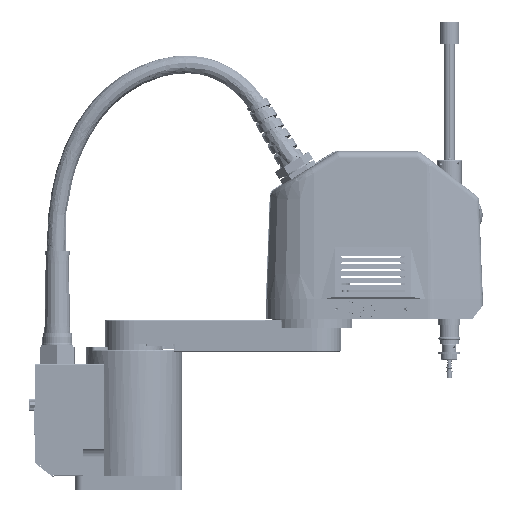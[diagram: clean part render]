
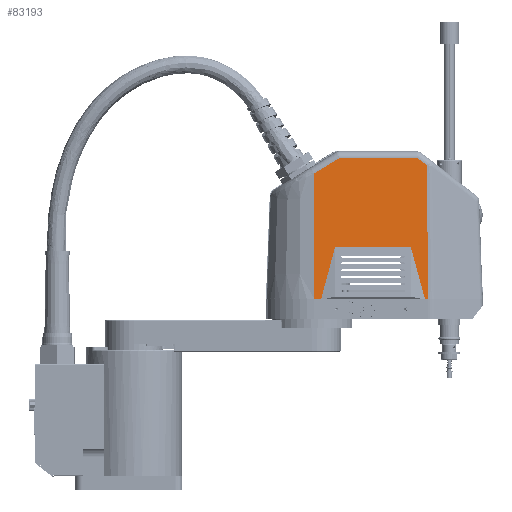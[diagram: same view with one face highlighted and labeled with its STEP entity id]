
A CAD part, front view. The second image highlights one B-rep face of the part: STEP entity #83193.
In plain terms, the highlighted planar face has unit normal (0.043, -0.999, 0.035) as drawn and (0, 0.999, -0.035) by its records, which use the part's own axes.
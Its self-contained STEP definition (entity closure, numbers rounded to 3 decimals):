
#2716 = CARTESIAN_POINT ( 'NONE',  ( 40.027, -0.003, 0. ) ) ;
#7721 = CARTESIAN_POINT ( 'NONE',  ( 53.415, -3.585, -102.574 ) ) ;
#9336 = DIRECTION ( 'NONE',  ( 0., 0.999, -0.035 ) ) ;
#9574 = EDGE_CURVE ( 'NONE', #16451, #82387, #42750, .T. ) ;
#11057 = AXIS2_PLACEMENT_3D ( 'NONE', #91121, #9336, #100914 ) ;
#11273 = CARTESIAN_POINT ( 'NONE',  ( 115.836, 0.018, 0.605 ) ) ;
#16136 = ORIENTED_EDGE ( 'NONE', *, *, #100666, .F. ) ;
#16451 = VERTEX_POINT ( 'NONE', #72258 ) ;
#18052 = CARTESIAN_POINT ( 'NONE',  ( 50.33, -1.329, -37.946 ) ) ;
#19772 = ORIENTED_EDGE ( 'NONE', *, *, #120234, .F. ) ;
#20092 = DIRECTION ( 'NONE',  ( -1., 0., 0. ) ) ;
#26399 = CARTESIAN_POINT ( 'NONE',  ( 0., -0.003, 0. ) ) ;
#26589 = EDGE_CURVE ( 'NONE', #95173, #124308, #115493, .T. ) ;
#27552 = VECTOR ( 'NONE', #86964, 1000. ) ;
#32051 = ORIENTED_EDGE ( 'NONE', *, *, #106180, .F. ) ;
#32950 = VERTEX_POINT ( 'NONE', #106290 ) ;
#36137 = VECTOR ( 'NONE', #20092, 1000. ) ;
#39135 = CARTESIAN_POINT ( 'NONE',  ( 109.056, -3.619, -103.532 ) ) ;
#41453 = DIRECTION ( 'NONE',  ( 0., 0.035, 0.999 ) ) ;
#42750 = LINE ( 'NONE', #61746, #70270 ) ;
#42753 = ORIENTED_EDGE ( 'NONE', *, *, #98611, .T. ) ;
#43043 = ORIENTED_EDGE ( 'NONE', *, *, #123405, .F. ) ;
#44963 = VECTOR ( 'NONE', #98327, 1000. ) ;
#53209 = ORIENTED_EDGE ( 'NONE', *, *, #124983, .T. ) ;
#54280 = CARTESIAN_POINT ( 'NONE',  ( 105.369, -1.329, -37.946 ) ) ;
#58134 = VECTOR ( 'NONE', #99333, 1000. ) ;
#58157 = LINE ( 'NONE', #39135, #27552 ) ;
#58166 = LINE ( 'NONE', #117736, #58134 ) ;
#59096 = VERTEX_POINT ( 'NONE', #7721 ) ;
#59334 = LINE ( 'NONE', #81559, #115914 ) ;
#59773 = VERTEX_POINT ( 'NONE', #18052 ) ;
#61746 = CARTESIAN_POINT ( 'NONE',  ( 35., 0., 0.1 ) ) ;
#64854 = CARTESIAN_POINT ( 'NONE',  ( 52., -3.585, -102.574 ) ) ;
#66096 = VERTEX_POINT ( 'NONE', #2716 ) ;
#66570 = LINE ( 'NONE', #127410, #129332 ) ;
#69573 = FACE_OUTER_BOUND ( 'NONE', #119675, .T. ) ;
#69798 = DIRECTION ( 'NONE',  ( -0.852, 0.018, 0.524 ) ) ;
#69834 = LINE ( 'NONE', #91387, #36137 ) ;
#70270 = VECTOR ( 'NONE', #41453, 1000. ) ;
#70421 = EDGE_CURVE ( 'NONE', #89527, #97299, #121912, .T. ) ;
#72258 = CARTESIAN_POINT ( 'NONE',  ( 35., -3.19, -91.242 ) ) ;
#73369 = EDGE_CURVE ( 'NONE', #59096, #16451, #59334, .T. ) ;
#74021 = LINE ( 'NONE', #64854, #75123 ) ;
#75123 = VECTOR ( 'NONE', #104750, 1000. ) ;
#75481 = CARTESIAN_POINT ( 'NONE',  ( 117.699, -3.39, -96.963 ) ) ;
#76662 = CARTESIAN_POINT ( 'NONE',  ( 35., -0.003, 0. ) ) ;
#81320 = PLANE ( 'NONE',  #11057 ) ;
#81559 = CARTESIAN_POINT ( 'NONE',  ( 37.545, -3.244, -92.808 ) ) ;
#82387 = VERTEX_POINT ( 'NONE', #76662 ) ;
#83193 = ADVANCED_FACE ( 'NONE', ( #69573 ), #81320, .T. ) ;
#86964 = DIRECTION ( 'NONE',  ( -0.796, -0.021, -0.605 ) ) ;
#89527 = VERTEX_POINT ( 'NONE', #92659 ) ;
#91121 = CARTESIAN_POINT ( 'NONE',  ( 117.699, 0., 0.1 ) ) ;
#91157 = ORIENTED_EDGE ( 'NONE', *, *, #70421, .F. ) ;
#91387 = CARTESIAN_POINT ( 'NONE',  ( 0., -0.003, 0. ) ) ;
#92659 = CARTESIAN_POINT ( 'NONE',  ( 115.672, -0.003, 0. ) ) ;
#95173 = VERTEX_POINT ( 'NONE', #75481 ) ;
#97299 = VERTEX_POINT ( 'NONE', #54280 ) ;
#97325 = VECTOR ( 'NONE', #118981, 1000. ) ;
#98327 = DIRECTION ( 'NONE',  ( -1., 0., 0. ) ) ;
#98611 = EDGE_CURVE ( 'NONE', #95173, #32950, #58157, .T. ) ;
#99333 = DIRECTION ( 'NONE',  ( -1., 0., 0. ) ) ;
#100666 = EDGE_CURVE ( 'NONE', #124308, #89527, #69834, .T. ) ;
#100914 = DIRECTION ( 'NONE',  ( 0., 0.035, 0.999 ) ) ;
#103613 = CARTESIAN_POINT ( 'NONE',  ( 117.699, -0.003, 0. ) ) ;
#104163 = ORIENTED_EDGE ( 'NONE', *, *, #73369, .T. ) ;
#104750 = DIRECTION ( 'NONE',  ( -1., 0., 0. ) ) ;
#106180 = EDGE_CURVE ( 'NONE', #97299, #59773, #58166, .T. ) ;
#106290 = CARTESIAN_POINT ( 'NONE',  ( 110.316, -3.585, -102.574 ) ) ;
#107073 = VECTOR ( 'NONE', #121264, 1000. ) ;
#109596 = ORIENTED_EDGE ( 'NONE', *, *, #26589, .F. ) ;
#115493 = LINE ( 'NONE', #124011, #97325 ) ;
#115914 = VECTOR ( 'NONE', #69798, 1000. ) ;
#116098 = LINE ( 'NONE', #26399, #44963 ) ;
#116967 = DIRECTION ( 'NONE',  ( -0.262, 0.034, 0.965 ) ) ;
#117736 = CARTESIAN_POINT ( 'NONE',  ( 117.699, -1.329, -37.946 ) ) ;
#118981 = DIRECTION ( 'NONE',  ( 0., 0.035, 0.999 ) ) ;
#119675 = EDGE_LOOP ( 'NONE', ( #43043, #32051, #91157, #16136, #109596, #42753, #53209, #104163, #123202, #19772 ) ) ;
#120234 = EDGE_CURVE ( 'NONE', #66096, #82387, #116098, .T. ) ;
#121264 = DIRECTION ( 'NONE',  ( -0.262, -0.034, -0.965 ) ) ;
#121912 = LINE ( 'NONE', #11273, #107073 ) ;
#123202 = ORIENTED_EDGE ( 'NONE', *, *, #9574, .T. ) ;
#123405 = EDGE_CURVE ( 'NONE', #59773, #66096, #66570, .T. ) ;
#124011 = CARTESIAN_POINT ( 'NONE',  ( 117.699, 0., 0.1 ) ) ;
#124308 = VERTEX_POINT ( 'NONE', #103613 ) ;
#124983 = EDGE_CURVE ( 'NONE', #32950, #59096, #74021, .T. ) ;
#127410 = CARTESIAN_POINT ( 'NONE',  ( 45.328, -0.685, -19.525 ) ) ;
#129332 = VECTOR ( 'NONE', #116967, 1000. ) ;
